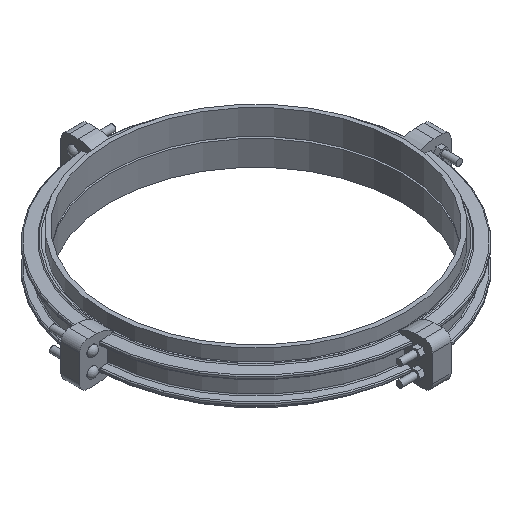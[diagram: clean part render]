
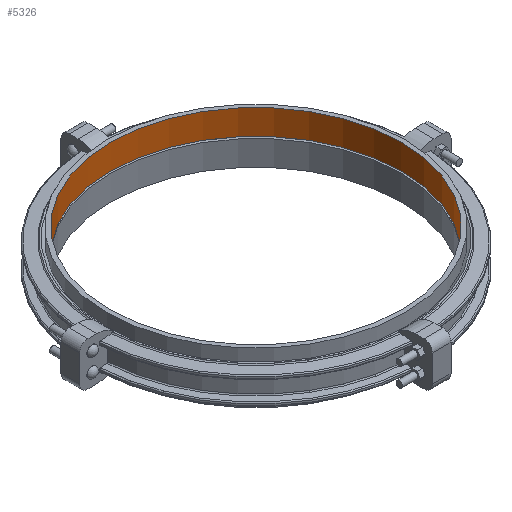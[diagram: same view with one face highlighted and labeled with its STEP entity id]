
A CAD part, isometric view. The second image highlights one B-rep face of the part: STEP entity #5326.
In plain terms, the highlighted cylindrical face has radius 889 mm (diameter 1778 mm), a full revolution.
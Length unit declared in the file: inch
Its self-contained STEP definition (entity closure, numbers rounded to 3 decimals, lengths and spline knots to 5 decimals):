
#270=CYLINDRICAL_SURFACE('',#5937,35.);
#588=FACE_OUTER_BOUND('',#906,.T.);
#906=EDGE_LOOP('',(#4630,#4631,#4632,#4633,#4634,#4635));
#1291=LINE('',#10065,#1674);
#1674=VECTOR('',#7388,35.);
#1927=CIRCLE('',#5935,35.);
#1928=CIRCLE('',#5936,35.);
#1929=CIRCLE('',#5938,35.);
#1930=CIRCLE('',#5939,35.);
#2431=VERTEX_POINT('',#10059);
#2432=VERTEX_POINT('',#10060);
#2433=VERTEX_POINT('',#10064);
#2434=VERTEX_POINT('',#10066);
#3165=EDGE_CURVE('',#2431,#2432,#1927,.T.);
#3166=EDGE_CURVE('',#2432,#2431,#1928,.T.);
#3167=EDGE_CURVE('',#2432,#2433,#1291,.T.);
#3168=EDGE_CURVE('',#2434,#2433,#1929,.T.);
#3169=EDGE_CURVE('',#2433,#2434,#1930,.T.);
#4630=ORIENTED_EDGE('',*,*,#3165,.T.);
#4631=ORIENTED_EDGE('',*,*,#3167,.T.);
#4632=ORIENTED_EDGE('',*,*,#3168,.F.);
#4633=ORIENTED_EDGE('',*,*,#3169,.F.);
#4634=ORIENTED_EDGE('',*,*,#3167,.F.);
#4635=ORIENTED_EDGE('',*,*,#3166,.T.);
#5326=ADVANCED_FACE('',(#588),#270,.F.);
#5935=AXIS2_PLACEMENT_3D('',#10061,#7382,#7383);
#5936=AXIS2_PLACEMENT_3D('',#10062,#7384,#7385);
#5937=AXIS2_PLACEMENT_3D('',#10063,#7386,#7387);
#5938=AXIS2_PLACEMENT_3D('',#10067,#7389,#7390);
#5939=AXIS2_PLACEMENT_3D('',#10068,#7391,#7392);
#7382=DIRECTION('center_axis',(0.,0.,-1.));
#7383=DIRECTION('ref_axis',(1.,0.,0.));
#7384=DIRECTION('center_axis',(0.,0.,-1.));
#7385=DIRECTION('ref_axis',(1.,0.,0.));
#7386=DIRECTION('center_axis',(0.,0.,-1.));
#7387=DIRECTION('ref_axis',(0.,1.,0.));
#7388=DIRECTION('',(0.,0.,1.));
#7389=DIRECTION('center_axis',(0.,0.,-1.));
#7390=DIRECTION('ref_axis',(1.,0.,0.));
#7391=DIRECTION('center_axis',(0.,0.,-1.));
#7392=DIRECTION('ref_axis',(1.,0.,0.));
#10059=CARTESIAN_POINT('',(0.,35.,0.));
#10060=CARTESIAN_POINT('',(0.,-35.,0.));
#10061=CARTESIAN_POINT('Origin',(0.,0.,0.));
#10062=CARTESIAN_POINT('Origin',(0.,0.,0.));
#10063=CARTESIAN_POINT('Origin',(0.,0.,3.));
#10064=CARTESIAN_POINT('',(0.,-35.,6.));
#10065=CARTESIAN_POINT('',(0.,-35.,3.));
#10066=CARTESIAN_POINT('',(0.,35.,6.));
#10067=CARTESIAN_POINT('Origin',(0.,0.,6.));
#10068=CARTESIAN_POINT('Origin',(0.,0.,6.));
